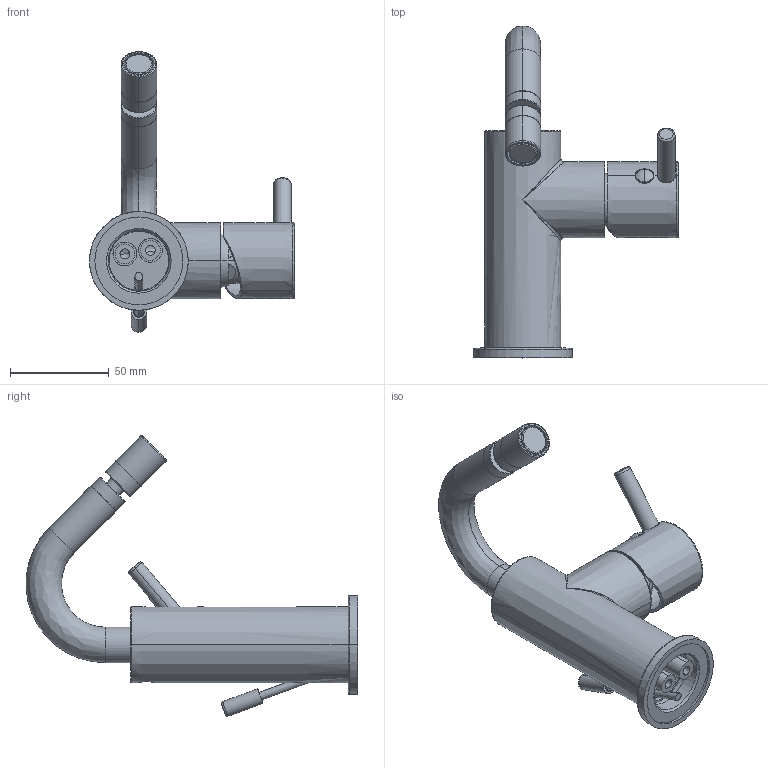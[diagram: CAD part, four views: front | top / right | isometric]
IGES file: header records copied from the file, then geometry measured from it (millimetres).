
Start section:  PTC IGES file: 12133.igs
Global section: file name: 12133.igs; native system: Creo Parametric by PTC Inc.; preprocessor: 2022014; author: carloff; organization: Unknown; date: 20250226.133710; units: millimetre
Bounding box: 103.8 x 167.94 x 142.05 mm (x, y, z)
Surface area: 74018.2 mm2 (no closed solid volume)
Topology: 0 solids, 0 shells, 1207 faces, 5650 edges, 5626 vertices
Faces by surface type: revolution 727, bspline 480
